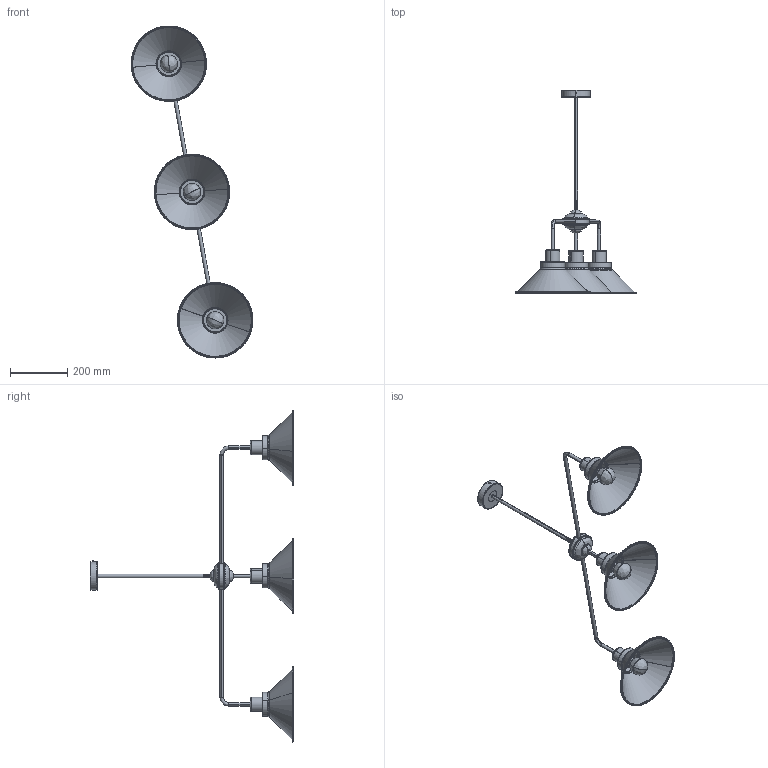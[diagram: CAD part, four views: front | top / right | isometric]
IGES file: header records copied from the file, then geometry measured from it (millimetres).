
Start section: SolidWorks IGES file using analytic representation for surfaces
Global section: file name: Z:\Modele 3D_WWW\_KOLEKCJE_WWW\CRAFT\CRAFT-9150\CRAFT-9150.IGS; native system: SolidWorks 2020; preprocessor: SolidWorks 2020; author: gabriela.tworek; date: 210323.141812; units: millimetre
Bounding box: 426.25 x 711.5 x 1161.93 mm (x, y, z)
Surface area: 838230.9 mm2 (no closed solid volume)
Topology: 0 solids, 0 shells, 758 faces, 12696 edges, 12632 vertices
Faces by surface type: revolution 393, bspline 365
